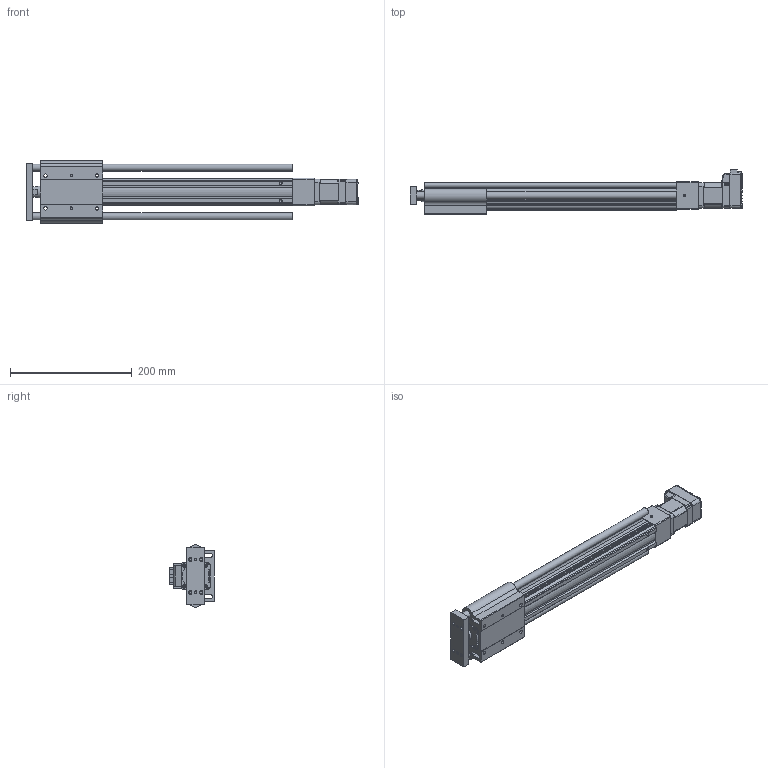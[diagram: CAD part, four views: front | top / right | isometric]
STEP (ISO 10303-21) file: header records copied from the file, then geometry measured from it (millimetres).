
FILE_DESCRIPTION (( 'STEP AP214' ), '1' );
FILE_NAME ('LEYG3(+)-25MDNM1□-300-17L.STEP', '2023-04-10T08:19:04', ( '' ), ( '' ), 'SwSTEP 2.0', 'SolidWorks 2019', '' );
FILE_SCHEMA (( 'AUTOMOTIVE_DESIGN' ));
Length unit declared in the file: millimetre
Products named in the file (6): LEYG3(+)-25□DNM1_MOTOR Flange; CM3(+)-17L50A; LEYG3(+)-25NM1?_BODY_300; LEYG3(+)-25MNM1?_ROD_300; LEYG3(+)-25MDNM1□-300-17L; LEYG3(+)-25MNM1□_ATTACH_300
Assembly tree (5 placements, depth 2):
  LEYG3(+)-25MDNM1□-300-17L
    LEYG3(+)-25NM1?_BODY_300
    LEYG3(+)-25MNM1?_ROD_300
    LEYG3(+)-25□DNM1_MOTOR Flange
    LEYG3(+)-25MNM1□_ATTACH_300
    CM3(+)-17L50A
Bounding box: 545.8 x 73.55 x 103 mm (x, y, z)
Volume: 1188879 mm3; surface area: 269868.2 mm2
Topology: 5 solids, 5 shells, 936 faces, 2384 edges, 1501 vertices
Faces by surface type: plane 499, cylinder 272, cone 86, bspline 29, torus 29, sphere 21
Full cylindrical faces by diameter (mm): 2.5 x4, 3.5 x4, 4 x2, 4.2 x2, 4.9 x4, 5 x1, 5.4 x4, 8 x1, 11 x1, 12 x2, 22 x1, 33 x1
Entity records: 37951 total; most frequent: CARTESIAN_POINT 6834, ORIENTED_EDGE 4612, DIRECTION 4473, EDGE_CURVE 2306, AXIS2_PLACEMENT_3D 1494, VERTEX_POINT 1490, VECTOR 1485, LINE 1485
